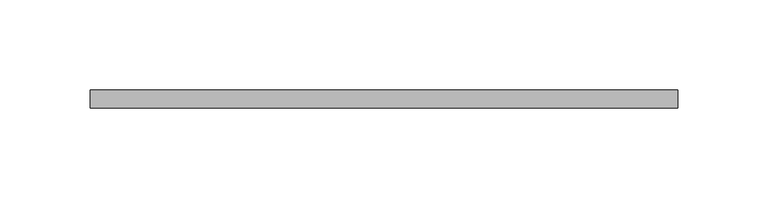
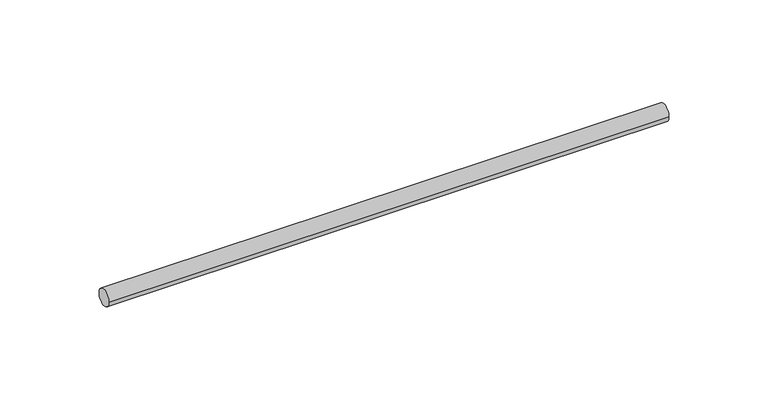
"""IFC4 building model written with IfcOpenShell, lengths in millimetres: valve geometry, Superfix Threaded Rod (used for clamps) : Threaded Rod  Extra  - 1000 mm (used for clamps)."""

from ifc_helpers import new_model, si_unit, point, frame, origin, origin_2d, place, context, project, spatial, circle_curve, trimmed, segment, composite_curve, outline, extrude, source, transform, mapped, element, save


def valve_2e221add(model_context):
    return source(origin(), model_context, "Body", "SweptSolid", [
        extrude(outline(composite_curve([segment(trimmed(circle_curve(origin_2d(), 5.0), [point((-5.0, 0.0))], [point((5.0, 0.0))], False, "CARTESIAN"), True, "CONTINUOUS"), segment(trimmed(circle_curve(origin_2d(), 5.0), [point((5.0, 0.0))], [point((-5.0, 0.0))], False, "CARTESIAN"), True, "CONTINUOUS")], self_intersect=False)), frame((-10.0, 0.0, 0.0), z_axis=(1.0, 0.0, 0.0), x_axis=(0.0, 1.0, 0.0)), (0.0, 0.0, 1.0), 326.5),
    ])


if __name__ == "__main__":
    model = new_model("IFC4")
    model_context = context("Model", 3, world=origin())
    ifc_project = project(units=[si_unit("LENGTHUNIT", "METRE", prefix="MILLI")], contexts=[model_context])
    site = spatial("IfcSite", under=ifc_project)
    building = spatial("IfcBuilding", under=site)
    placement = place(None, origin())
    valve_shape = valve_2e221add(model_context)
    element("IfcValve", 1, ObjectType="Superfix Threaded Rod (used for clamps) : Threaded Rod  Extra  - 1000 mm (used for clamps)", at=placement, inside=building, context=model_context, shape_type="MappedRepresentation", body=[
        mapped(valve_shape, transform((0.0, 0.0, 0.0), x_axis=(1.0, 0.0, 0.0), y_axis=(0.0, 1.0, 0.0), z_axis=(0.0, 0.0, 1.0))),
    ])
    save(model, "model.ifc")
